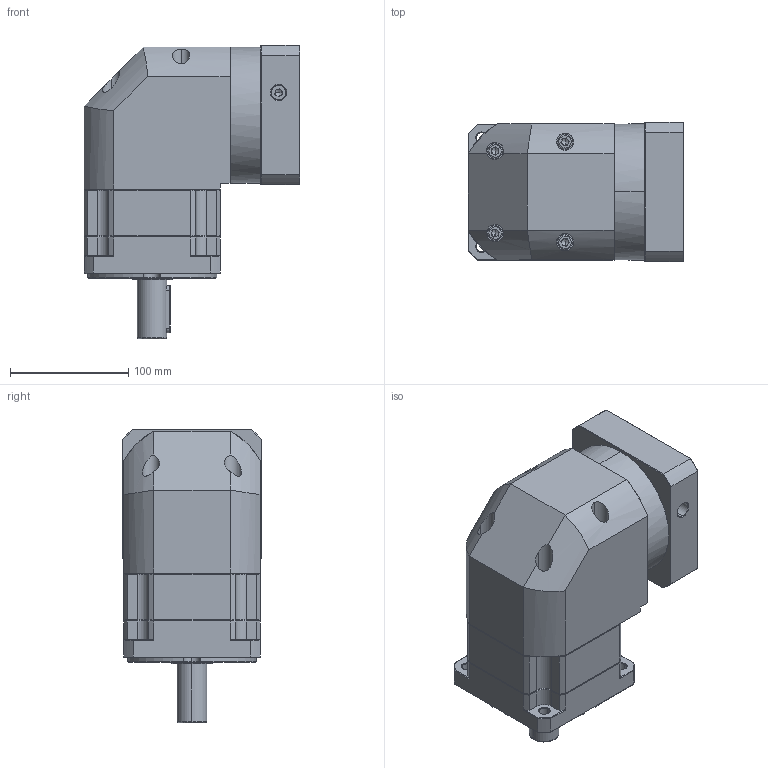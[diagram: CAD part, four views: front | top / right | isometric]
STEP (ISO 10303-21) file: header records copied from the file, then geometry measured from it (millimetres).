
FILE_DESCRIPTION (( 'STEP AP214' ), '1' );
FILE_NAME ('ZBR115A-D25-L1-P2-24-95-115-M6.step', '2023-08-26T12:31:32', ( '' ), ( '' ), 'SwSTEP 2.0', 'SolidWorks 2016', '' );
FILE_SCHEMA (( 'AUTOMOTIVE_DESIGN' ));
Length unit declared in the file: millimetre
Products named in the file (1): ZBR115A-D25-L1-P2-24-95-115-M6
Bounding box: 182.4 x 118 x 248 mm (x, y, z)
Volume: 2859144 mm3; surface area: 237917.9 mm2
Topology: 6 solids, 6 shells, 2366 faces, 6186 edges, 3923 vertices
Faces by surface type: plane 1138, bspline 428, cylinder 424, cone 368, torus 8
Entity records: 128213 total; most frequent: CARTESIAN_POINT 47623, ORIENTED_EDGE 12312, DIRECTION 9711, EDGE_CURVE 6156, VECTOR 3969, LINE 3969, VERTEX_POINT 3923, AXIS2_PLACEMENT_3D 2871
